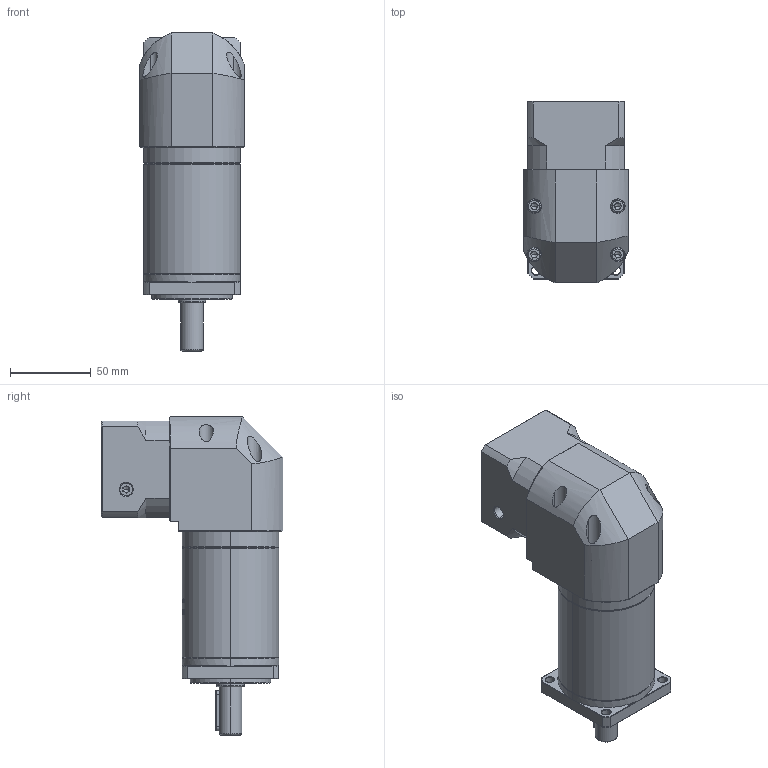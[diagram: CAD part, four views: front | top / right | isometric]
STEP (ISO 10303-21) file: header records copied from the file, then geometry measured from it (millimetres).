
FILE_DESCRIPTION (( 'STEP AP214' ), '1' );
FILE_NAME ('ZFR060-D14-L3-P2-11-50-70-M5.step', '2023-08-17T03:32:12', ( '' ), ( '' ), 'SwSTEP 2.0', 'SolidWorks 2016', '' );
FILE_SCHEMA (( 'AUTOMOTIVE_DESIGN' ));
Length unit declared in the file: millimetre
Products named in the file (1): ZFR060-D14-L3-P2-11-50-70-M5
Bounding box: 65 x 112.7 x 197.5 mm (x, y, z)
Volume: 635993.4 mm3; surface area: 85185.2 mm2
Topology: 5 solids, 6 shells, 1922 faces, 5155 edges, 3330 vertices
Faces by surface type: plane 847, cylinder 407, bspline 354, cone 288, torus 26
Entity records: 106555 total; most frequent: CARTESIAN_POINT 41473, ORIENTED_EDGE 10266, DIRECTION 7687, EDGE_CURVE 5133, VERTEX_POINT 3330, VECTOR 2613, LINE 2613, AXIS2_PLACEMENT_3D 2537
